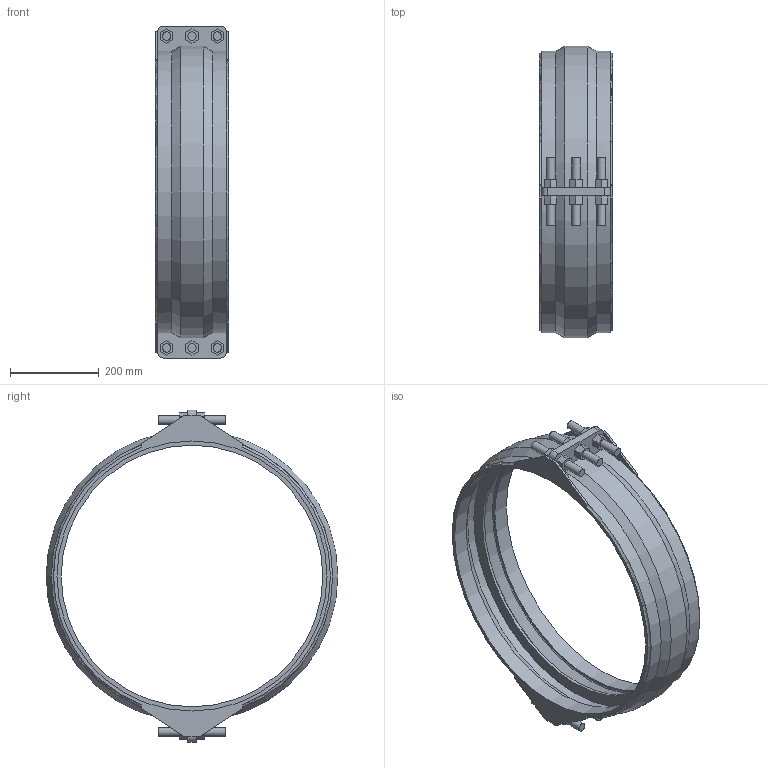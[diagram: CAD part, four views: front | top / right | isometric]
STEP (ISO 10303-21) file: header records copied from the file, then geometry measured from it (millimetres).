
FILE_DESCRIPTION(/* description */ ('VIC SS RESTRAINED COUPLING STYLE 234S (FLEX) (BRS)','CAx-IF Rec.Pracs.---Representation and Presentation of Product Manufacturing Information (PMI)---4.0---2014-10-13'),/* implementation_level */ '2;1');
FILE_NAME(/* name */ 'C:\Users\kkamble\AppData\Roaming\Autodesk\ApplicationPlugins\Back Up\Victaulic_VBSP_Coupling Flexible Restrained_Style 234S (BRS)\Victaulic_VBSP_Coupling Flexible Restrained_Style 234S (BRS)_200psi_24 (600).stp',/* time_stamp */ '2020-09-22T18:41:13+05:00',/* author */ ('Vjadhav'),/* organization */ ('Victaulic'),/* preprocessor_version */ 'ST-DEVELOPER v17.2',/* originating_system */ 'Autodesk Inventor 2019',/* authorisation */ '');
FILE_SCHEMA (('AP242_MANAGED_MODEL_BASED_3D_ENGINEERING_MIM_LF { 1 0 10303 442 1 1 4 }'));
Length unit declared in the file: inch
Products named in the file (1): Style_234S_Type_2_200psi-24.0
Bounding box: 165.1 x 658.46 x 749.3 mm (x, y, z)
Volume: 4114753.2 mm3; surface area: 985181.8 mm2
Topology: 1 solids, 1 shells, 187 faces, 473 edges, 316 vertices
Faces by surface type: plane 132, cylinder 43, torus 6, cone 6
Full cylindrical faces by diameter (mm): 19.05 x12, 590.55 x1, 609.6 x2, 645.764 x2
Entity records: 6074 total; most frequent: CARTESIAN_POINT 1146, DIRECTION 977, ORIENTED_EDGE 946, EDGE_CURVE 473, LINE 339, VECTOR 339, AXIS2_PLACEMENT_3D 319, VERTEX_POINT 316
